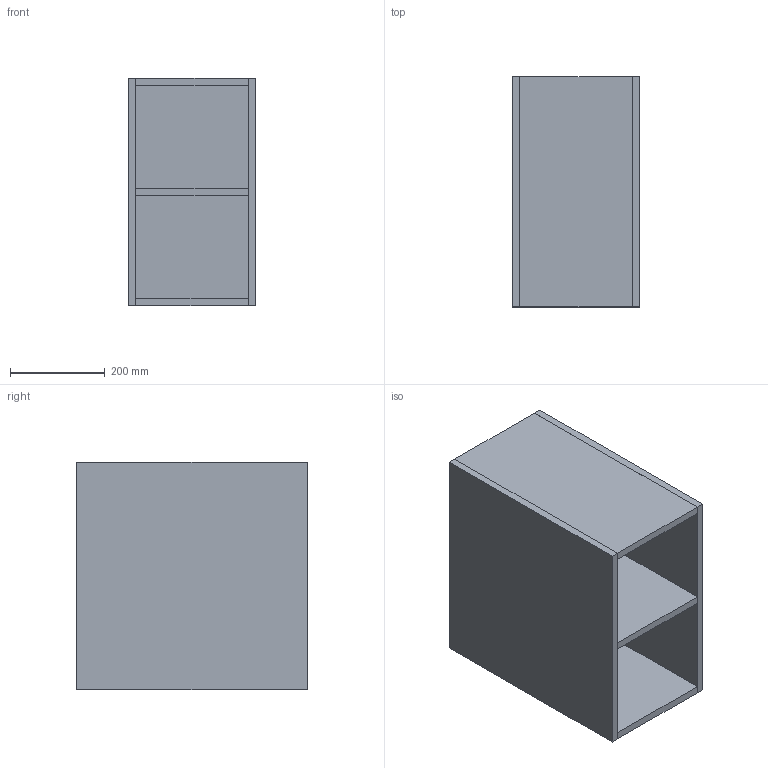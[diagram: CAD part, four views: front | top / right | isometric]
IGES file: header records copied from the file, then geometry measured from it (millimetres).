
Start section: Data from Parasolid IGES Translator 19.0.9, Copyright(c) 2006 Siemens PL M Software. All Rights Reserved.
Global section: file name: noorth-SI-H 48 D 51 W 27_8589.igs; native system: By Siemens PLM Incorporated; preprocessor: XPlus GENERIC/IGES 19.0.9; author: Noname; organization: Noname; date: 20200601.111910; units: metre
Bounding box: 270.01 x 486.06 x 480 mm (x, y, z)
Volume: 13322519.9 mm3; surface area: 1975616.1 mm2
Topology: 6 solids, 6 shells, 36 faces, 72 edges, 48 vertices
Faces by surface type: plane 36
